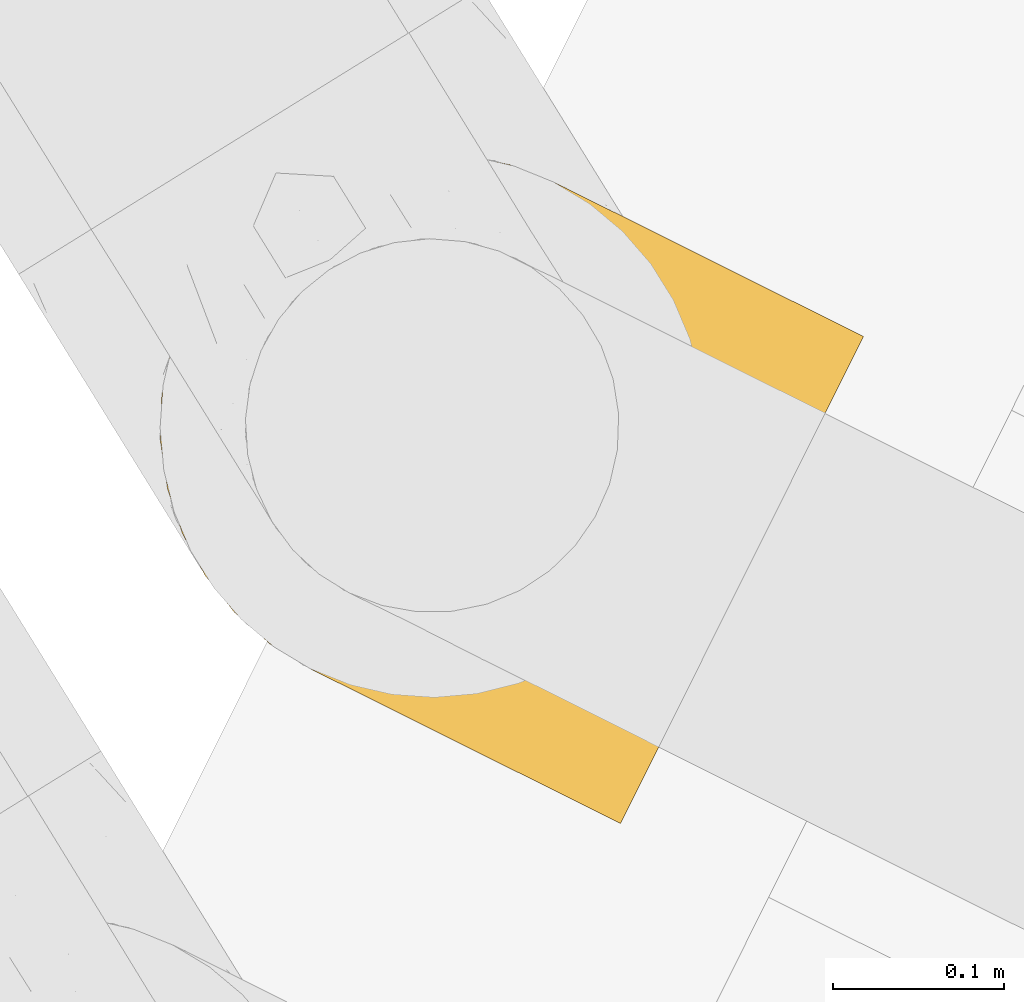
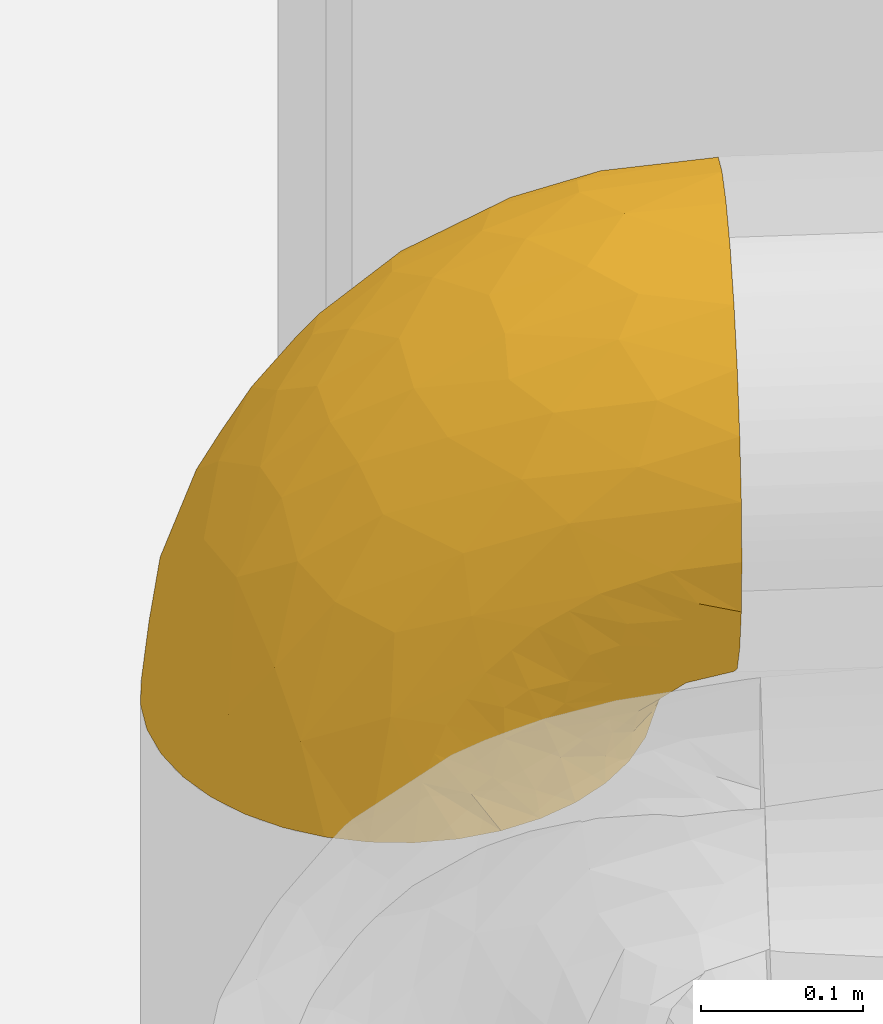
# One storey, part 40 of 91: 1 covering.
"""IFC2X3 building model written with IfcOpenShell, lengths in metres."""

from ifc_helpers import new_model, entity, si_unit, converted_unit, derived_unit, direction, frame, origin, place, context, subcontext, project, spatial, faceted_brep, element, save


model = new_model("IFC2X3")

# Units and contexts
model_context = context("Model", 3, precision=1e-05, world=origin(), true_north=direction((0.894925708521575, 0.446215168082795)))
context_of_model = context(None, 3, precision=1e-05, world=origin(), true_north=direction((0.894925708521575, 0.446215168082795)))
body_context = subcontext(model_context, "Body", "Model", "MODEL_VIEW")
ifc_project = project(units=[si_unit("LENGTHUNIT", "METRE"), si_unit("AREAUNIT", "SQUARE_METRE"), si_unit("VOLUMEUNIT", "CUBIC_METRE"), converted_unit("PLANEANGLEUNIT", "DEGREE", entity("IfcRatioMeasure", 0.0174532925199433), si_unit("PLANEANGLEUNIT", "RADIAN"), dimensions=[0, 0, 0, 0, 0, 0, 0]), si_unit("MASSUNIT", "GRAM", prefix="KILO"), si_unit("TIMEUNIT", "SECOND"), si_unit("FREQUENCYUNIT", "HERTZ"), si_unit("THERMODYNAMICTEMPERATUREUNIT", "DEGREE_CELSIUS"), derived_unit("THERMALTRANSMITTANCEUNIT", [(si_unit("MASSUNIT", "GRAM", prefix="KILO"), 1), (si_unit("THERMODYNAMICTEMPERATUREUNIT", "KELVIN"), -1), (si_unit("TIMEUNIT", "SECOND"), -3)]), derived_unit("VOLUMETRICFLOWRATEUNIT", [(si_unit("LENGTHUNIT", "METRE"), 3), (si_unit("TIMEUNIT", "SECOND"), -1)]), si_unit("ELECTRICCURRENTUNIT", "AMPERE"), si_unit("ELECTRICVOLTAGEUNIT", "VOLT"), si_unit("POWERUNIT", "WATT"), si_unit("FORCEUNIT", "NEWTON", prefix="KILO"), si_unit("ILLUMINANCEUNIT", "LUX"), si_unit("LUMINOUSFLUXUNIT", "LUMEN"), si_unit("LUMINOUSINTENSITYUNIT", "CANDELA"), si_unit("PRESSUREUNIT", "PASCAL")], contexts=[model_context, context_of_model])

# Site, building, storey
site_placement = place(None, frame((218.228324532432, 584.720189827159, 0.0), z_axis=(0.0, 0.0, 1.0), x_axis=(0.446215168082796, 0.894925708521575, 0.0)))
site = spatial("IfcSite", under=ifc_project, at=site_placement, Name="Default", CompositionType="ELEMENT")
building_placement = place(site_placement, origin())
building = spatial("IfcBuilding", under=site, at=building_placement, CompositionType="ELEMENT")
storey_placement = place(building_placement, origin())
storey = spatial("IfcBuildingStorey", under=building, at=storey_placement, Name="0 - Piano Terra", CompositionType="ELEMENT", Elevation=0.0)

# Covering
covering_placement = place(storey_placement, frame((-30.3033657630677, 5.93432603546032, 2.87140472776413)))
element("IfcCovering", 1, at=covering_placement, inside=storey, Name="Isolamento tubazione:Default", ObjectType="Isolamento tubazione:Default", PredefinedType="INSULATION", context=body_context, shape_type="Brep", body=[
    faceted_brep([(0.00401863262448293, 0.232297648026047, 0.00159527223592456), (0.0112173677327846, 0.259164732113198, 0.00159527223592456), (0.022972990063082, 0.284373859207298, 0.00159527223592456), (0.0389245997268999, 0.307154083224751, 0.00159527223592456), (0.0585869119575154, 0.326816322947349, 0.00159527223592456), (0.0813706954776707, 0.342769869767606, 0.00159527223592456), (0.106580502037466, 0.354524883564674, 0.00159527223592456), (0.133444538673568, 0.361722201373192, 0.00159527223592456), (0.161145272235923, 0.364145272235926, 0.00159527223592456), (0.188847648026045, 0.361721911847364, 0.00159527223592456), (0.215714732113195, 0.354523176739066, 0.00159527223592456), (0.240923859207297, 0.342767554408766, 0.00159527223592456), (0.26370408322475, 0.32681594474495, 0.00159527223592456), (0.283366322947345, 0.307153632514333, 0.00159527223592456), (0.299319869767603, 0.284369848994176, 0.00159527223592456), (0.311074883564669, 0.259160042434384, 0.00159527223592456), (0.318272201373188, 0.232296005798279, 0.00159527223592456), (0.320695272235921, 0.204595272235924, 0.00159527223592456), (0.319748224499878, 0.19376920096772, 0.00159527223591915), (0.318271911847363, 0.176892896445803, 0.00159527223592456), (0.314672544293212, 0.163459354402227, 0.00159527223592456), (0.311073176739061, 0.150025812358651, 0.00159527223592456), (0.299317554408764, 0.124816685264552, 0.00159527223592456), (0.283365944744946, 0.102036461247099, 0.00159527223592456), (0.263703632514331, 0.0823742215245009, 0.00159527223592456), (0.240919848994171, 0.0664206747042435, 0.00159527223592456), (0.21571004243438, 0.0546656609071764, 0.00159527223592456), (0.188846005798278, 0.047468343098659, 0.00159527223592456), (0.161145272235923, 0.0450452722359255, 0.00159527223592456), (0.133442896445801, 0.0474686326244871, 0.00159527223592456), (0.106575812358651, 0.0546673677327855, 0.00159527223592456), (0.0813666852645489, 0.066422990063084, 0.00159527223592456), (0.0585864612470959, 0.0823745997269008, 0.00159527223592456), (0.0389242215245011, 0.102036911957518, 0.00159527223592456), (0.0229706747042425, 0.124820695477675, 0.00159527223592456), (0.0112156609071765, 0.150030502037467, 0.00159527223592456), (0.00401834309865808, 0.176894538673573, 0.00159527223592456), (0.00254226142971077, 0.193769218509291, 0.00159527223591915), (0.00159527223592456, 0.204595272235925, 0.00159527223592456), (0.273964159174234, 0.0015952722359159, 0.0917763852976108), (0.28664189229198, 0.0015952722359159, 0.108298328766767), (0.299319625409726, 0.0015952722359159, 0.124820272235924), (0.307289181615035, 0.0015952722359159, 0.14406048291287), (0.315258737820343, 0.0015952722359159, 0.163300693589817), (0.317809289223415, 0.0015952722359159, 0.182674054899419), (0.319252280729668, 0.0015952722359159, 0.193634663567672), (0.320695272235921, 0.0015952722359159, 0.204595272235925), (0.315258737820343, 0.00159527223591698, 0.245889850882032), (0.29931962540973, 0.00159527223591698, 0.284370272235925), (0.273964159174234, 0.00159527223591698, 0.317414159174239), (0.24092027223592, 0.00159527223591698, 0.342769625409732), (0.202439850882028, 0.00159527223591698, 0.358708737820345), (0.161145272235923, 0.00159527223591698, 0.364145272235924), (0.119850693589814, 0.00159527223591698, 0.358708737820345), (0.0813702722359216, 0.00159527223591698, 0.342769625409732), (0.0483263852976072, 0.00159527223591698, 0.317414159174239), (0.0229709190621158, 0.00159527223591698, 0.284370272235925), (0.00703180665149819, 0.00159527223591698, 0.245889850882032), (0.00159527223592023, 0.0015952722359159, 0.204595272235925), (0.00303826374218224, 0.0015952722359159, 0.193634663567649), (0.00448125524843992, 0.0015952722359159, 0.182674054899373), (0.00703180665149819, 0.0015952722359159, 0.163300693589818), (0.0150013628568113, 0.0015952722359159, 0.144060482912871), (0.0229709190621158, 0.0015952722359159, 0.124820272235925), (0.0356486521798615, 0.0015952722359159, 0.108298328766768), (0.0483263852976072, 0.0015952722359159, 0.0917763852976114), (0.0813702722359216, 0.0015952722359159, 0.0664209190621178), (0.119850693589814, 0.0015952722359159, 0.050481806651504), (0.161145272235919, 0.0015952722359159, 0.0450452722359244), (0.202439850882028, 0.0015952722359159, 0.0504818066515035), (0.24092027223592, 0.0015952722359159, 0.0664209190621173), (0.257442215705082, 0.0015952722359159, 0.0790986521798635), (0.121118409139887, 0.0900951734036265, 0.347913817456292), (0.161145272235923, 0.0645514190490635, 0.3586373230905), (0.161145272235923, 0.12559467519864, 0.342280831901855), (0.0158233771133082, 0.173037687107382, 0.208704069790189), (0.00511463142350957, 0.168703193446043, 0.168703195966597), (0.0100299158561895, 0.108066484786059, 0.232411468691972), (0.00159527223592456, 0.128163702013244, 0.160307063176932), (0.00159527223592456, 0.108918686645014, 0.172399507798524), (0.00159527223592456, 0.0896736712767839, 0.184491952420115), (0.0934024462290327, 0.142688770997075, 0.319112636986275), (0.123575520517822, 0.150576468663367, 0.327193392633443), (0.12514635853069, 0.206213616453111, 0.295886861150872), (0.0570017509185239, 0.273081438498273, 0.178199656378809), (0.0431505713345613, 0.221076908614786, 0.221076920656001), (0.0705795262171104, 0.234774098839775, 0.241221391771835), (0.0944497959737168, 0.0599626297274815, 0.3446058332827), (0.0387310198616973, 0.0515208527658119, 0.302813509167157), (0.0129629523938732, 0.215857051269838, 0.152632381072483), (0.161145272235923, 0.18287027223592, 0.315572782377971), (0.161145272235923, 0.234637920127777, 0.279324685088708), (0.133516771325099, 0.256252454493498, 0.256252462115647), (0.161145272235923, 0.279324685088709, 0.234637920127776), (0.00159527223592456, 0.199505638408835, 0.0467670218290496), (0.00511463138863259, 0.21877290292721, 0.0947832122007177), (0.0446735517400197, 0.115600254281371, 0.292067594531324), (0.0260023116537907, 0.136729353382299, 0.25570716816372), (0.0179910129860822, 0.0646646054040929, 0.26767159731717), (0.0995927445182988, 0.342089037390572, 0.0834683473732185), (0.123595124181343, 0.327172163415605, 0.150634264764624), (0.131616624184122, 0.350066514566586, 0.0911457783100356), (0.00159527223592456, 0.0467670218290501, 0.199505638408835), (0.00159527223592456, 0.0239518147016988, 0.202076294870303), (0.00159527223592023, 0.0127735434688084, 0.203335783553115), (0.0700943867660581, 0.0737158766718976, 0.327735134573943), (0.161145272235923, 0.342280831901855, 0.12559467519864), (0.161145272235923, 0.315572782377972, 0.18287027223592), (0.00159527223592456, 0.068220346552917, 0.191998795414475), (0.021267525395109, 0.273493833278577, 0.0674034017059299), (0.102727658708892, 0.250122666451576, 0.250122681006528), (0.117904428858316, 0.292585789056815, 0.207684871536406), (0.0889801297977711, 0.281138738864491, 0.204290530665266), (0.0399396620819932, 0.288377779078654, 0.110477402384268), (0.0539804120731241, 0.316159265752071, 0.0665622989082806), (0.0327813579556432, 0.251447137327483, 0.163562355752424), (0.08249296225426, 0.309557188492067, 0.149912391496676), (0.161145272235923, 0.3586373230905, 0.0645514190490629), (0.00159527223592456, 0.203335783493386, 0.0127735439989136), (0.00159527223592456, 0.202076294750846, 0.0239518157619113), (0.00159527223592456, 0.184491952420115, 0.0896736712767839), (0.00159527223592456, 0.172399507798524, 0.108918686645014), (0.00159527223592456, 0.160307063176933, 0.128163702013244), (0.00159527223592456, 0.191998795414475, 0.068220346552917), (0.00159527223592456, 0.144235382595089, 0.144235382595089), (0.0877758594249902, 0.19927966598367, 0.283951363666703), (0.054731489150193, 0.180304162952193, 0.269306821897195), (0.0672704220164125, 0.141814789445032, 0.302542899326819), (0.128523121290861, 0.0408292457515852, 0.0271465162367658), (0.00445320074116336, 0.0284627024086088, 0.172432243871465), (0.0199006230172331, 0.128182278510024, 0.0253498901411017), (0.0071935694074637, 0.0376598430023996, 0.158613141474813), (0.0319186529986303, 0.0979970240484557, 0.0533645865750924), (0.0540740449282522, 0.0829606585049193, 0.0251720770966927), (0.0496629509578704, 0.078727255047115, 0.0457177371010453), (0.00670263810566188, 0.0951853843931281, 0.134992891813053), (0.00907190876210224, 0.107494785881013, 0.114409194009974), (0.0196472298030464, 0.0804950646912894, 0.104008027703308), (0.00748528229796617, 0.155605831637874, 0.045142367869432), (0.0796054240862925, 0.0312638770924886, 0.0603938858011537), (0.0544254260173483, 0.0260038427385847, 0.0823838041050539), (0.0528398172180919, 0.04672469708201, 0.0746164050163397), (0.0253226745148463, 0.112391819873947, 0.0457848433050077), (0.0117973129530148, 0.123613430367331, 0.0833280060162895), (0.00652119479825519, 0.148232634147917, 0.0742742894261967), (0.0588741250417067, 0.0620352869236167, 0.054825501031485), (0.030040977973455, 0.0904636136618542, 0.0698784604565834), (0.0760787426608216, 0.064633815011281, 0.02714361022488), (0.0332077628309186, 0.0541637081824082, 0.0955577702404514), (0.118919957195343, 0.0263992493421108, 0.0440145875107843), (0.0976175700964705, 0.0462280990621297, 0.0364709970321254), (0.00472404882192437, 0.133116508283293, 0.111751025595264), (0.00374166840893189, 0.148702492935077, 0.0998764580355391), (0.109201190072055, 0.050897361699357, 0.0185697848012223), (0.00491105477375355, 0.168975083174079, 0.0347995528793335), (0.036065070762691, 0.069816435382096, 0.080024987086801), (0.0304950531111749, 0.0207775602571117, 0.111352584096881), (0.161145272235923, 0.0392240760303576, 0.0233202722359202), (0.161145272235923, 0.0233202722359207, 0.0392240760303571), (0.0311379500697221, 0.0360215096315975, 0.106606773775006), (0.00450923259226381, 0.0724405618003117, 0.159036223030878), (0.00816115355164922, 0.0762577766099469, 0.140501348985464), (0.0170730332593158, 0.0687110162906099, 0.118092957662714), (0.0181870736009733, 0.0261891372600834, 0.13144064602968), (0.0131833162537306, 0.110544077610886, 0.0946896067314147), (0.0139794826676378, 0.0504309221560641, 0.134260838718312), (0.274129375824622, 0.0854589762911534, 0.0352015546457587), (0.292100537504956, 0.0913301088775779, 0.0683770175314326), (0.303732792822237, 0.117856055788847, 0.0628508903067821), (0.19223932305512, 0.0421616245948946, 0.0243434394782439), (0.202770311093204, 0.0292129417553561, 0.0420410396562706), (0.264371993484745, 0.0219615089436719, 0.0803473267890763), (0.284525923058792, 0.0268437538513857, 0.100255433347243), (0.308416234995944, 0.0982324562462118, 0.105120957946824), (0.31799859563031, 0.116013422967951, 0.132405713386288), (0.309124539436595, 0.0770762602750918, 0.123461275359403), (0.316918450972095, 0.142677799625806, 0.0937077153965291), (0.307193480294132, 0.108617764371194, 0.0899238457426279), (0.320695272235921, 0.172399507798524, 0.108918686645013), (0.317320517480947, 0.154525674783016, 0.076656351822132), (0.320695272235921, 0.0467670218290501, 0.199505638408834), (0.320695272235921, 0.0239518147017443, 0.202076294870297), (0.320695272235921, 0.0127735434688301, 0.20333578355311), (0.265794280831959, 0.0387154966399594, 0.0753443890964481), (0.284487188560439, 0.0449983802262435, 0.0936706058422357), (0.3178373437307, 0.028462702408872, 0.172432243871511), (0.211690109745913, 0.0511194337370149, 0.0163235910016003), (0.244180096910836, 0.0644557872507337, 0.024076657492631), (0.222113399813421, 0.0476548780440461, 0.0326633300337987), (0.307931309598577, 0.0492274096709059, 0.133742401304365), (0.303886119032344, 0.0255805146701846, 0.131110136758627), (0.265441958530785, 0.0713370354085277, 0.0452142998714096), (0.320695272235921, 0.068220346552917, 0.191998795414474), (0.285745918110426, 0.0636793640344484, 0.084214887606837), (0.315096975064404, 0.0376598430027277, 0.158613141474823), (0.320695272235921, 0.203335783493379, 0.0127735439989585), (0.320695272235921, 0.202076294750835, 0.0239518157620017), (0.320695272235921, 0.199505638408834, 0.0467670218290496), (0.289626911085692, 0.106279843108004, 0.0297424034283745), (0.316907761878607, 0.128674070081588, 0.112156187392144), (0.320695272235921, 0.144235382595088, 0.144235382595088), (0.308647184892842, 0.137474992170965, 0.0434416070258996), (0.241589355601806, 0.0296081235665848, 0.0604863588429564), (0.320695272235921, 0.184491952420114, 0.0896736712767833), (0.320695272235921, 0.191998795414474, 0.0682203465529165), (0.318279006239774, 0.175110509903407, 0.0268111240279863), (0.315202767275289, 0.159628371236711, 0.0348646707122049), (0.317948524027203, 0.101389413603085, 0.143549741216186), (0.320695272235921, 0.0896736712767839, 0.184491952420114), (0.241328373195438, 0.0449504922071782, 0.0501071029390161), (0.26830786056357, 0.0615544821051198, 0.0615545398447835), (0.317605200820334, 0.162967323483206, 0.0603958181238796), (0.318027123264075, 0.0775658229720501, 0.158071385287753), (0.320695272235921, 0.160307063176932, 0.128163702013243), (0.320695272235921, 0.128163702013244, 0.160307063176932), (0.320695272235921, 0.108918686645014, 0.172399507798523), (0.317175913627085, 0.168703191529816, 0.168703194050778), (0.188774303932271, 0.256252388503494, 0.256252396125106), (0.20438685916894, 0.292585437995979, 0.207685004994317), (0.303706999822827, 0.085870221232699, 0.262986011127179), (0.277616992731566, 0.115600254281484, 0.292067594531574), (0.283559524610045, 0.0515208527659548, 0.302813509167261), (0.31717591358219, 0.0947832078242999, 0.218772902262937), (0.268310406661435, 0.316158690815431, 0.0665638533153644), (0.301025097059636, 0.27348950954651, 0.0674051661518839), (0.31268812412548, 0.231435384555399, 0.107126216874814), (0.251711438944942, 0.261389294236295, 0.212070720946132), (0.279139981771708, 0.221076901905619, 0.221076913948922), (0.279786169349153, 0.261435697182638, 0.170072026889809), (0.219563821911, 0.250122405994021, 0.25012242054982), (0.250901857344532, 0.197311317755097, 0.273365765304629), (0.197144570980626, 0.206213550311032, 0.295886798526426), (0.227690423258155, 0.0896994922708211, 0.338268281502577), (0.252196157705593, 0.0737158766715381, 0.327735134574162), (0.190450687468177, 0.151012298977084, 0.328942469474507), (0.225073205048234, 0.204366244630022, 0.285870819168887), (0.228888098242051, 0.1426887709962, 0.319112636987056), (0.201172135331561, 0.0900951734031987, 0.347913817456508), (0.296737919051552, 0.190362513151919, 0.217897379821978), (0.312661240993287, 0.249198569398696, 0.0535290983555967), (0.254929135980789, 0.129404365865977, 0.308091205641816), (0.23979974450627, 0.309556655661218, 0.149910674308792), (0.22270210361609, 0.342087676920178, 0.0834663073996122), (0.198697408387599, 0.327171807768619, 0.150633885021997), (0.309327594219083, 0.152632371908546, 0.21585705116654), (0.28258368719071, 0.168253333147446, 0.258806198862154), (0.282352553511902, 0.288376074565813, 0.110476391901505), (0.190676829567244, 0.350067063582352, 0.0911414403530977), (0.30633820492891, 0.209361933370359, 0.172686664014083), (0.298229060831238, 0.253495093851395, 0.134122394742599)], [[[0, 1, 2, 3, 4, 5, 6, 7, 8, 9, 10, 11, 12, 13, 14, 15, 16, 17, 18, 19, 20, 21, 22, 23, 24, 25, 26, 27, 28, 29, 30, 31, 32, 33, 34, 35, 36, 37, 38]], [[39, 40, 41, 42, 43, 44, 45, 46, 47, 48, 49, 50, 51, 52, 53, 54, 55, 56, 57, 58, 59, 60, 61, 62, 63, 64, 65, 66, 67, 68, 69, 70, 71]], [[72, 73, 74]], [[73, 53, 52]], [[75, 76, 77]], [[76, 78, 79, 80]], [[81, 82, 83]], [[84, 85, 86]], [[87, 53, 72]], [[88, 56, 55]], [[89, 76, 75]], [[83, 82, 90]], [[91, 83, 90]], [[92, 91, 93]], [[0, 94, 95]], [[96, 97, 98]], [[99, 100, 101]], [[57, 102, 103, 104, 58]], [[55, 54, 105]], [[106, 100, 107]], [[98, 57, 56]], [[77, 80, 108, 102]], [[2, 1, 109]], [[102, 57, 77]], [[110, 111, 112]], [[89, 95, 76]], [[76, 80, 77]], [[91, 92, 83]], [[109, 113, 114]], [[115, 109, 89]], [[111, 107, 100]], [[109, 0, 95]], [[5, 99, 6]], [[105, 96, 88]], [[7, 6, 101]], [[99, 5, 114]], [[99, 114, 116]], [[99, 101, 6]], [[82, 81, 72]], [[4, 114, 5]], [[113, 116, 114]], [[117, 8, 7]], [[117, 101, 106]], [[114, 3, 2]], [[0, 38, 118, 119, 94]], [[95, 120, 121, 122]], [[110, 112, 86]], [[85, 84, 115]], [[85, 75, 97]], [[95, 94, 123, 120]], [[116, 112, 111]], [[76, 95, 122]], [[53, 73, 72]], [[76, 122, 124, 78]], [[99, 116, 100]], [[3, 114, 4]], [[2, 109, 114]], [[81, 105, 87]], [[125, 83, 110]], [[92, 111, 110]], [[0, 109, 1]], [[125, 126, 127]], [[89, 109, 95]], [[97, 75, 77]], [[115, 75, 85]], [[98, 97, 77]], [[97, 96, 126]], [[93, 107, 111]], [[83, 92, 110]], [[111, 92, 93]], [[116, 111, 100]], [[57, 98, 77]], [[98, 56, 88]], [[87, 105, 54]], [[105, 81, 127]], [[84, 112, 116]], [[112, 84, 86]], [[116, 113, 84]], [[115, 84, 113]], [[126, 86, 85]], [[125, 110, 86]], [[97, 126, 85]], [[127, 126, 96]], [[126, 125, 86]], [[83, 125, 81]], [[109, 115, 113]], [[75, 115, 89]], [[105, 127, 96]], [[125, 127, 81]], [[106, 101, 100]], [[7, 101, 117]], [[105, 88, 55]], [[98, 88, 96]], [[72, 74, 82]], [[90, 82, 74]], [[53, 87, 54]], [[81, 87, 72]], [[59, 58, 104, 103, 102, 61, 60]], [[29, 28, 128]], [[61, 129, 62]], [[130, 34, 33]], [[63, 62, 131]], [[102, 129, 61]], [[132, 133, 134]], [[135, 136, 137]], [[130, 138, 34]], [[139, 140, 141]], [[142, 143, 144]], [[134, 145, 146]], [[147, 31, 30]], [[141, 140, 148]], [[149, 68, 67]], [[67, 66, 139]], [[142, 32, 133]], [[134, 133, 147]], [[150, 128, 149]], [[136, 124, 151]], [[151, 122, 152]], [[147, 153, 150]], [[142, 33, 32]], [[30, 153, 147]], [[94, 35, 154]], [[138, 123, 154]], [[119, 118, 38, 37, 36, 94]], [[149, 67, 139]], [[145, 155, 146]], [[94, 36, 35]], [[156, 65, 64]], [[138, 130, 144]], [[157, 128, 28]], [[150, 153, 128]], [[154, 34, 138]], [[138, 120, 123]], [[149, 128, 158]], [[31, 133, 32]], [[31, 147, 133]], [[30, 29, 153]], [[145, 147, 150]], [[159, 148, 140]], [[144, 120, 138]], [[160, 131, 80]], [[161, 135, 162]], [[108, 131, 129]], [[80, 131, 108]], [[160, 163, 131]], [[150, 139, 145]], [[155, 141, 148]], [[142, 132, 143]], [[152, 144, 143]], [[108, 129, 102]], [[131, 62, 129]], [[29, 128, 153]], [[158, 128, 157]], [[149, 158, 68]], [[139, 150, 149]], [[164, 136, 151]], [[144, 152, 121]], [[164, 155, 137]], [[135, 78, 136]], [[145, 134, 147]], [[132, 134, 146]], [[143, 132, 146]], [[133, 132, 142]], [[33, 142, 130]], [[144, 130, 142]], [[141, 145, 139]], [[137, 155, 148]], [[137, 162, 135]], [[137, 136, 164]], [[162, 137, 148]], [[159, 162, 148]], [[160, 79, 161]], [[79, 78, 135]], [[161, 162, 165]], [[160, 161, 165]], [[79, 135, 161]], [[160, 165, 163]], [[79, 160, 80]], [[145, 141, 155]], [[140, 139, 66]], [[66, 65, 140]], [[159, 165, 162]], [[140, 65, 159]], [[64, 63, 163]], [[156, 159, 65]], [[131, 163, 63]], [[156, 165, 159]], [[64, 163, 156]], [[165, 156, 163]], [[121, 152, 122]], [[121, 120, 144]], [[151, 152, 143]], [[164, 151, 143]], [[143, 146, 164]], [[124, 136, 78]], [[124, 122, 151]], [[164, 146, 155]], [[94, 154, 123]], [[34, 154, 35]], [[24, 166, 25]], [[167, 166, 168]], [[158, 169, 170]], [[71, 171, 172]], [[158, 157, 169]], [[173, 174, 175]], [[168, 176, 177]], [[170, 68, 158]], [[178, 176, 179]], [[71, 70, 171]], [[45, 44, 43, 180, 181, 182, 46]], [[171, 183, 184]], [[43, 42, 185]], [[186, 187, 188]], [[172, 39, 71]], [[189, 190, 172]], [[191, 188, 187]], [[185, 192, 180]], [[191, 187, 166]], [[184, 183, 193]], [[27, 26, 186]], [[194, 42, 41]], [[18, 17, 195, 196, 197, 19]], [[187, 26, 25]], [[166, 187, 25]], [[24, 198, 166]], [[199, 200, 174]], [[23, 22, 201]], [[23, 198, 24]], [[186, 169, 27]], [[70, 69, 202]], [[203, 178, 179]], [[201, 168, 198]], [[204, 205, 197]], [[204, 206, 205]], [[175, 184, 193]], [[205, 20, 197]], [[174, 207, 175]], [[194, 208, 192]], [[68, 170, 69]], [[183, 209, 210]], [[166, 198, 168]], [[169, 28, 27]], [[167, 210, 191]], [[201, 198, 23]], [[203, 179, 211]], [[21, 206, 22]], [[185, 180, 43]], [[172, 190, 40]], [[194, 189, 212]], [[187, 186, 26]], [[169, 186, 188]], [[169, 188, 170]], [[169, 157, 28]], [[209, 170, 188]], [[69, 170, 202]], [[42, 194, 185]], [[192, 185, 194]], [[211, 204, 203]], [[201, 22, 206]], [[177, 176, 199]], [[193, 167, 173]], [[199, 176, 213]], [[213, 176, 178]], [[179, 168, 201]], [[200, 214, 174]], [[177, 199, 173]], [[199, 213, 200]], [[168, 179, 176]], [[179, 201, 211]], [[201, 206, 211]], [[204, 211, 206]], [[212, 175, 207]], [[199, 174, 173]], [[207, 174, 214]], [[172, 175, 189]], [[214, 215, 207]], [[208, 212, 215]], [[207, 215, 212]], [[194, 212, 208]], [[212, 189, 175]], [[167, 191, 166]], [[191, 210, 209]], [[20, 205, 21]], [[20, 19, 197]], [[206, 21, 205]], [[184, 172, 171]], [[70, 202, 171]], [[183, 171, 202]], [[175, 172, 184]], [[190, 41, 40]], [[190, 194, 41]], [[39, 172, 40]], [[194, 190, 189]], [[209, 183, 202]], [[193, 183, 210]], [[167, 193, 210]], [[175, 193, 173]], [[170, 209, 202]], [[191, 209, 188]], [[173, 167, 177]], [[168, 177, 167]], [[216, 208, 215, 214]], [[93, 217, 218]], [[219, 220, 221]], [[222, 46, 182, 181, 180]], [[222, 208, 216]], [[223, 224, 14]], [[203, 225, 216]], [[226, 227, 228]], [[14, 224, 15]], [[216, 214, 200, 213]], [[229, 230, 226]], [[217, 231, 229]], [[232, 50, 233]], [[90, 74, 234]], [[73, 52, 51]], [[223, 12, 11]], [[49, 48, 221]], [[235, 236, 230]], [[49, 233, 50]], [[74, 73, 237]], [[227, 238, 228]], [[236, 231, 234]], [[16, 15, 239]], [[234, 74, 237]], [[233, 240, 236]], [[231, 91, 90]], [[225, 203, 204, 197]], [[241, 242, 243]], [[222, 180, 192, 208]], [[107, 93, 218]], [[239, 197, 16]], [[16, 197, 196, 195, 17]], [[232, 51, 50]], [[244, 222, 216]], [[47, 222, 219]], [[245, 230, 240]], [[246, 224, 223]], [[243, 106, 107]], [[48, 47, 219]], [[14, 13, 223]], [[73, 51, 237]], [[11, 242, 223]], [[12, 223, 13]], [[247, 243, 242]], [[11, 10, 242]], [[243, 218, 241]], [[106, 243, 247]], [[91, 217, 93]], [[247, 9, 117]], [[46, 222, 47]], [[8, 117, 9]], [[248, 216, 225]], [[219, 222, 244]], [[242, 241, 223]], [[228, 248, 249]], [[244, 245, 219]], [[10, 9, 247]], [[244, 216, 248]], [[245, 244, 238]], [[216, 213, 178, 203]], [[241, 246, 223]], [[249, 224, 246]], [[239, 224, 225]], [[249, 225, 224]], [[238, 244, 248]], [[231, 217, 91]], [[218, 217, 229]], [[218, 229, 226]], [[107, 218, 243]], [[249, 246, 228]], [[248, 225, 249]], [[233, 49, 221]], [[232, 233, 236]], [[224, 239, 15]], [[197, 239, 225]], [[246, 241, 228]], [[231, 235, 229]], [[228, 241, 226]], [[218, 226, 241]], [[230, 236, 240]], [[227, 226, 230]], [[228, 238, 248]], [[245, 238, 227]], [[230, 245, 227]], [[219, 245, 220]], [[247, 242, 10]], [[106, 247, 117]], [[219, 221, 48]], [[233, 221, 220]], [[236, 234, 237]], [[90, 234, 231]], [[233, 220, 240]], [[240, 220, 245]], [[236, 237, 232]], [[232, 237, 51]], [[236, 235, 231]], [[230, 229, 235]]]),
])

save(model, "model.ifc")
